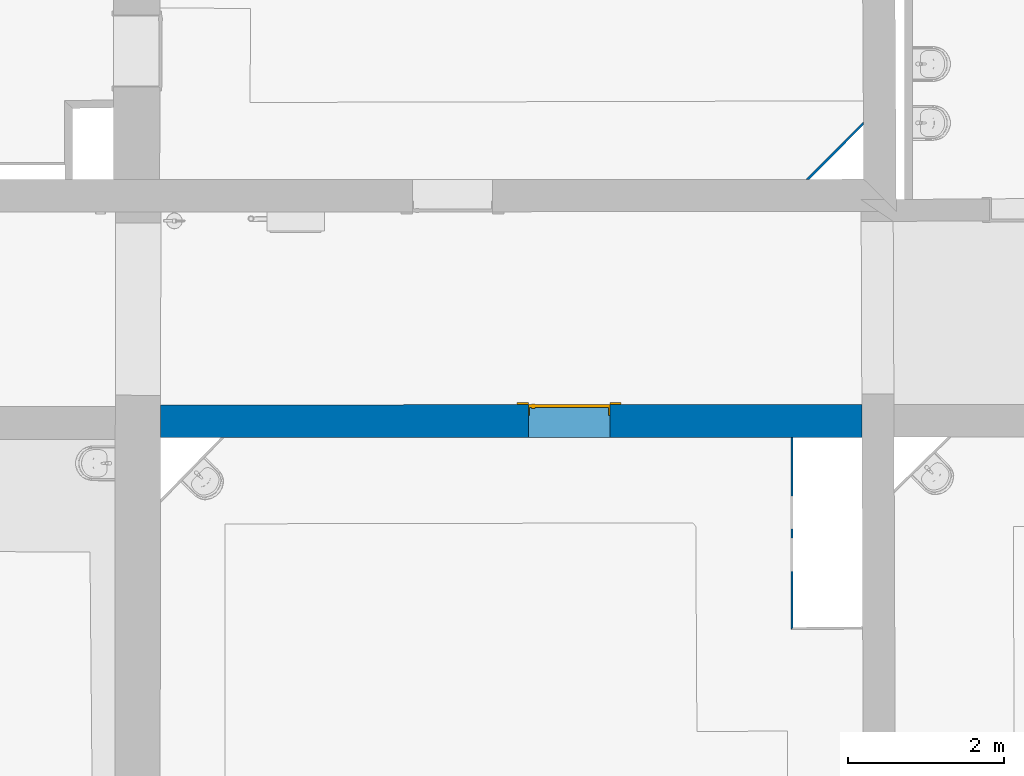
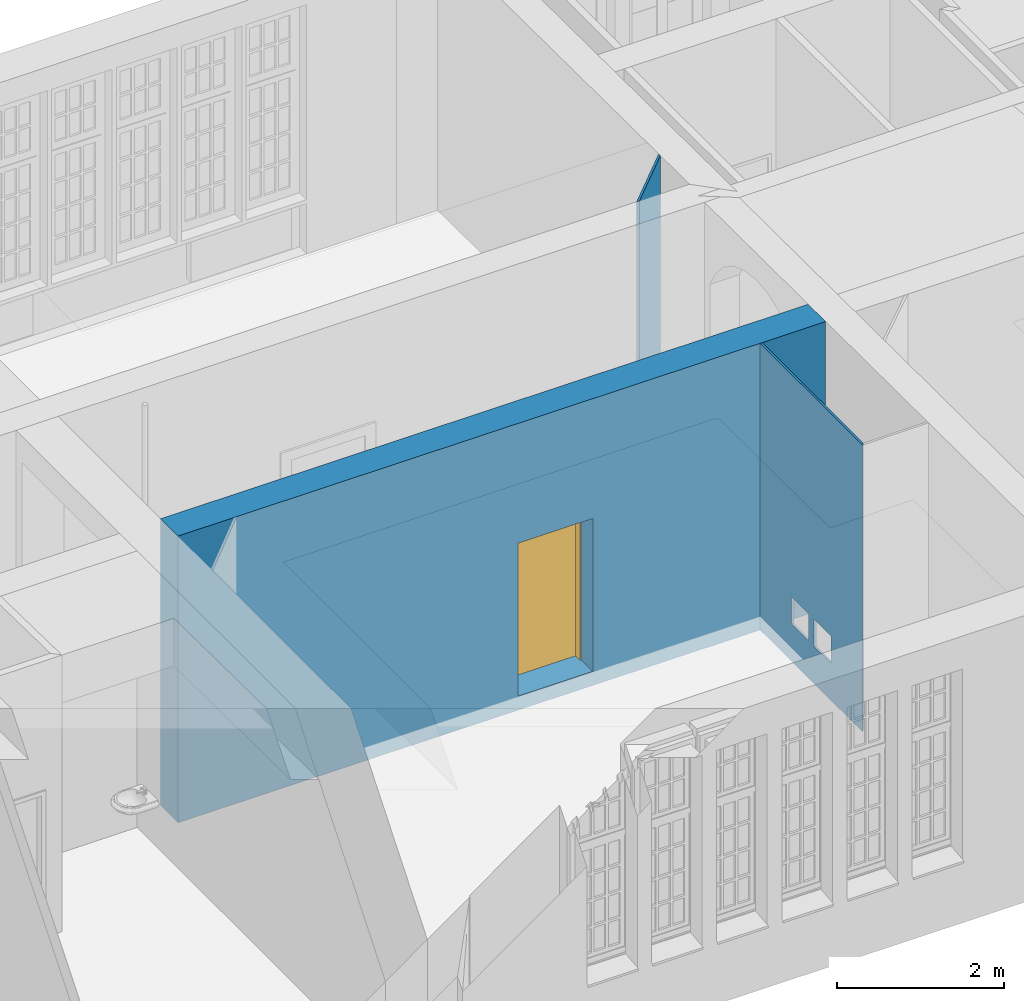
# One storey, part 24 of 90: 3 walls, 1 door, 3 openings.
"""IFC2X3 building model written with IfcOpenShell, lengths in metres."""

from ifc_helpers import new_model, entity, si_unit, converted_unit, derived_unit, money_unit, direction, frame, origin_with_axes, origin_2d_with_axis, place, context, subcontext, project, spatial, polyline, rectangle, outline, extrude, open_shell, faceted_brep, surface_model, source, transform, mapped, material, layer, layer_set, layer_usage, type_object, element, fill, save


model = new_model("IFC2X3")

# Units and contexts
model_context = context("Model", 3, precision=1e-05, world=origin_with_axes(), true_north=direction((0.0, 1.0)))
body_context = subcontext(model_context, "Body", "Model", "MODEL_VIEW")
ifc_project = project(units=[si_unit("LENGTHUNIT", "METRE"), si_unit("AREAUNIT", "SQUARE_METRE"), si_unit("VOLUMEUNIT", "CUBIC_METRE"), converted_unit("PLANEANGLEUNIT", "DEGREE", entity("IfcPlaneAngleMeasure", 0.0174532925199), si_unit("PLANEANGLEUNIT", "RADIAN"), dimensions=[0, 0, 0, 0, 0, 0, 0]), money_unit("EUR"), converted_unit("TIMEUNIT", "Year", entity("IfcTimeMeasure", 31556926.0), si_unit("TIMEUNIT", "SECOND"), dimensions=[0, 0, 1, 0, 0, 0, 0]), si_unit("MASSUNIT", "GRAM", prefix="KILO"), si_unit("THERMODYNAMICTEMPERATUREUNIT", "DEGREE_CELSIUS"), si_unit("LUMINOUSINTENSITYUNIT", "LUMEN"), si_unit("ENERGYUNIT", "JOULE", prefix="MEGA"), derived_unit("THERMALCONDUCTANCEUNIT", [(si_unit("POWERUNIT", "WATT"), 1), (si_unit("LENGTHUNIT", "METRE"), -1), (si_unit("THERMODYNAMICTEMPERATUREUNIT", "KELVIN"), -1)]), derived_unit("SPECIFICHEATCAPACITYUNIT", [(si_unit("ENERGYUNIT", "JOULE"), 1), (si_unit("MASSUNIT", "GRAM", prefix="KILO"), -1), (si_unit("THERMODYNAMICTEMPERATUREUNIT", "KELVIN"), -1)]), derived_unit("MASSDENSITYUNIT", [(si_unit("MASSUNIT", "GRAM", prefix="KILO"), 1), (si_unit("VOLUMEUNIT", "CUBIC_METRE"), -1)])], contexts=[model_context])

# Site, building, storey
site_placement = place(None, origin_with_axes())
site = spatial("IfcSite", under=ifc_project, at=site_placement, Name="Gelände", CompositionType="ELEMENT")
building_placement = place(site_placement, origin_with_axes())
building = spatial("IfcBuilding", under=site, at=building_placement, Name="Gebäude", CompositionType="ELEMENT")
storey_placement = place(building_placement, frame((0.0, 0.0, 3.7), z_axis=(0.0, 0.0, 1.0), x_axis=(1.0, 0.0, 0.0)))
storey = spatial("IfcBuildingStorey", under=building, at=storey_placement, Name="1.OBERGESCHOSS", CompositionType="ELEMENT", Elevation=3.7)

# Wall, opening, door
ifc_material_1 = material(Name="05_ALLGEMEIN - TRAGENDE BAUTEILE")
ifc_layer_1 = layer(ifc_material_1, 0.42, ventilated="UNKNOWN")
ifc_layer_set_1 = layer_set([ifc_layer_1], Name="05_ALLGEMEIN - TRAGENDE BAUTEILE 0.42")
ifc_layer_usage_1 = layer_usage(ifc_layer_set_1, "AXIS2", "POSITIVE", -0.42)
wall_type_1 = type_object("IfcWallType", Name="05_ALLGEMEIN - TRAGENDE BAUTEILE 420", PredefinedType="ELEMENTEDWALL")
wall_1_placement = place(storey_placement, frame((3.56592682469, 16.8108172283, -0.1), z_axis=(0.0, 0.0, 1.0), x_axis=(0.9999999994, 3.46289479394e-05, 0.0)))
wall_1 = element("IfcWallStandardCase", 1, at=wall_1_placement, inside=storey, type_object=wall_type_1, material=ifc_layer_usage_1, Name="Wand-041", ObjectType="ELEMENTEDWALL", context=body_context, shape_type="SweptSolid", body=[
    extrude(outline(polyline([(-0.000550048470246, -0.42), (8.97255301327, -0.42), (8.97097019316, 0.0), (0.0, 0.0), (-0.000550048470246, -0.42)])), origin_with_axes(), (0.0, 0.0, 1.0), 4.2),
])
opening_1_placement = place(wall_1_placement, frame((5.22607919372, 0.0, 0.206800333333), z_axis=(0.0, 0.0, 1.0), x_axis=(1.0, 0.0, 0.0)))
opening_1 = element("IfcOpeningElement", 2, at=opening_1_placement, cuts=wall_1, Name="Tür-022", context=body_context, shape_type="SweptSolid", body=[
    extrude(rectangle(XDim=1.03990335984, YDim=2.24001358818, at=origin_2d_with_axis()), frame((0.0, -0.42, 1.12000679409), z_axis=(0.0, 1.0, 0.0), x_axis=(1.0, 0.0, 0.0)), (0.0, 0.0, 1.0), 1.26),
])
door_style = type_object("IfcDoorStyle", Name="Blockrahmentür 1-Fl 25", ConstructionType="NOTDEFINED", OperationType="SINGLE_SWING_RIGHT", ParameterTakesPrecedence=False, Sizeable=False)
shared_shape = source(origin_with_axes(), body_context, "Body", "SurfaceModel", [
    faceted_brep([(0.519951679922, -0.14, 0.0), (0.519951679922, -0.035, 0.0), (0.519951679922, -0.035, 2.24001358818), (0.519951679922, -0.14, 2.24001358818), (0.504951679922, -0.14, 0.0), (0.504951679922, -0.035, 0.0), (0.504951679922, -0.035, 2.22501358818), (0.1151, -0.035, 2.22501358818), (0.0001, -0.035, 2.22501358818), (-0.504951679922, -0.035, 2.22501358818), (-0.504951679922, -0.035, 0.0), (-0.519951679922, -0.035, 0.0), (-0.519951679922, -0.035, 2.24001358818), (-0.519951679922, -0.14, 2.24001358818), (-0.519951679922, -0.14, 0.0), (-0.504951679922, -0.14, 0.0), (-0.504951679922, -0.14, 2.22501358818), (0.0001, -0.14, 2.22501358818), (0.1151, -0.14, 2.22501358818), (0.504951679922, -0.14, 2.22501358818)], [[[0, 1, 2, 3]], [[4, 5, 1, 0]], [[1, 5, 6, 7, 8, 9, 10, 11, 12, 2]], [[3, 2, 12, 13]], [[0, 3, 13, 14, 15, 16, 17, 18, 19, 4]], [[19, 6, 5, 4]], [[18, 7, 6, 19]], [[17, 8, 7, 18]], [[16, 9, 8, 17]], [[15, 10, 9, 16]], [[14, 11, 10, 15]], [[13, 12, 11, 14]]]),
    surface_model("IfcShellBasedSurfaceModel", [(0.519951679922, -0.035, 0.0), (0.519951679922, 0.03, 0.0), (0.519951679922, 0.03, 2.24001358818), (0.519951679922, -0.035, 2.24001358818), (0.519951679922, -0.035, 2.24001358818), (0.519951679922, 0.03, 2.24001358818), (-0.519951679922, 0.03, 2.24001358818), (0.0151, 0.03, 2.24001358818), (0.1001, 0.03, 2.24001358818), (0.1001, -0.035, 2.24001358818), (0.0151, -0.035, 2.24001358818), (-0.519951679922, -0.035, 2.24001358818), (-0.519951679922, -0.035, 2.24001358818), (-0.519951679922, -0.035, 0.0), (-0.519951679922, 0.03, 0.0), (-0.519951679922, 0.03, 2.24001358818)], [open_shell([[[0, 1, 2, 3]], [[4, 5, 1, 0]], [[6, 7, 8, 2]], [[3, 2, 8, 9]], [[9, 10, 11, 4]], [[12, 6, 5, 4]], [[13, 14, 6, 12]], [[11, 15, 14, 13]], [[10, 7, 15, 11]], [[9, 8, 7, 10]]])]),
    faceted_brep([(0.664951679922, 0.0, 0.0), (0.664951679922, 0.03, 0.0), (0.664951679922, 0.03, 2.38501358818), (0.664951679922, 0.0, 2.38501358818), (0.519951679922, 0.0, 0.0), (0.519951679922, 0.03, 0.0), (0.519951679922, 0.03, 2.24001358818), (-0.519951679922, 0.03, 2.24001358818), (-0.519951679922, 0.03, 0.0), (-0.664951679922, 0.03, 0.0), (-0.664951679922, 0.03, 2.38501358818), (-0.664951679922, 0.0, 2.38501358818), (-0.664951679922, 0.0, 0.0), (-0.519951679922, 0.0, 0.0), (-0.519951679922, 0.0, 2.24001358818), (0.519951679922, 0.0, 2.24001358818)], [[[0, 1, 2, 3]], [[4, 5, 1, 0]], [[1, 5, 6, 7, 8, 9, 10, 2]], [[3, 2, 10, 11]], [[0, 3, 11, 12, 13, 14, 15, 4]], [[15, 6, 5, 4]], [[14, 7, 6, 15]], [[13, 8, 7, 14]], [[12, 9, 8, 13]], [[11, 10, 9, 12]]]),
    faceted_brep([(0.519951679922, 0.002, 0.0), (-0.519951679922, 0.002, 0.0), (-0.519951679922, 0.002, 2.24001358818), (0.519951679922, 0.002, 2.24001358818), (0.519951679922, -0.035, 0.0), (-0.519951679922, -0.035, 0.0), (-0.519951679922, -0.035, 2.24001358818), (0.519951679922, -0.035, 2.24001358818)], [[[0, 1, 2, 3]], [[1, 0, 4, 5]], [[2, 1, 5, 6]], [[3, 2, 6, 7]], [[0, 3, 7, 4]], [[5, 4, 7, 6]]]),
    faceted_brep([(-0.46465396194, -0.075, 1.05647213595), (-0.459951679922, -0.075, 1.058), (-0.459951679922, -0.055, 1.058), (-0.46465396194, -0.055, 1.05647213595), (-0.467560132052, -0.075, 1.05247213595), (-0.467560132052, -0.075, 1.04752786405), (-0.46465396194, -0.075, 1.04352786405), (-0.459951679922, -0.075, 1.042), (-0.455249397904, -0.075, 1.04352786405), (-0.452343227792, -0.075, 1.04752786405), (-0.452343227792, -0.075, 1.05247213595), (-0.455249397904, -0.075, 1.05647213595), (-0.455249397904, -0.055, 1.05647213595), (-0.459951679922, -0.053, 1.06), (-0.465829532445, -0.053, 1.05809016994), (-0.467560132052, -0.055, 1.05247213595), (-0.467560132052, -0.055, 1.04752786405), (-0.46465396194, -0.055, 1.04352786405), (-0.459951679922, -0.055, 1.042), (-0.455249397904, -0.055, 1.04352786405), (-0.452343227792, -0.055, 1.04752786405), (-0.452343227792, -0.055, 1.05247213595), (-0.454073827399, -0.053, 1.05809016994), (-0.459951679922, -0.045, 1.06), (-0.465829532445, -0.045, 1.05809016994), (-0.469462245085, -0.053, 1.05309016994), (-0.469462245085, -0.053, 1.04690983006), (-0.465829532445, -0.053, 1.04190983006), (-0.459951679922, -0.053, 1.04), (-0.454073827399, -0.053, 1.04190983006), (-0.450441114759, -0.053, 1.04690983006), (-0.450441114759, -0.053, 1.05309016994), (-0.454073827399, -0.045, 1.05809016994), (-0.450441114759, -0.045, 1.05309016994), (-0.450441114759, -0.045, 1.04690983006), (-0.454073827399, -0.045, 1.04190983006), (-0.459951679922, -0.045, 1.04), (-0.465829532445, -0.045, 1.04190983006), (-0.469462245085, -0.045, 1.04690983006), (-0.469462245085, -0.045, 1.05309016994)], [[[0, 1, 2, 3]], [[1, 0, 4, 5, 6, 7, 8, 9, 10, 11]], [[1, 11, 12, 2]], [[3, 2, 13, 14]], [[4, 0, 3, 15]], [[5, 4, 15, 16]], [[6, 5, 16, 17]], [[7, 6, 17, 18]], [[8, 7, 18, 19]], [[9, 8, 19, 20]], [[10, 9, 20, 21]], [[11, 10, 21, 12]], [[2, 12, 22, 13]], [[14, 13, 23, 24]], [[15, 3, 14, 25]], [[16, 15, 25, 26]], [[17, 16, 26, 27]], [[18, 17, 27, 28]], [[19, 18, 28, 29]], [[20, 19, 29, 30]], [[21, 20, 30, 31]], [[12, 21, 31, 22]], [[13, 22, 32, 23]], [[23, 32, 33, 34, 35, 36, 37, 38, 39, 24]], [[25, 14, 24, 39]], [[26, 25, 39, 38]], [[27, 26, 38, 37]], [[28, 27, 37, 36]], [[29, 28, 36, 35]], [[30, 29, 35, 34]], [[31, 30, 34, 33]], [[22, 31, 33, 32]]]),
    faceted_brep([(-0.447763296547, -0.045, 1.11759695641), (-0.455508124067, -0.045, 1.12195567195), (-0.464395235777, -0.045, 1.12195567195), (-0.472140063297, -0.045, 1.11759695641), (-0.476751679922, -0.045, 1.11), (-0.482451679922, -0.045, 1.11), (-0.482451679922, -0.045, 0.89), (-0.476751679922, -0.045, 0.89), (-0.472140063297, -0.045, 0.882403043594), (-0.464395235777, -0.045, 0.878044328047), (-0.455508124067, -0.045, 0.878044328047), (-0.447763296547, -0.045, 0.882403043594), (-0.443151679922, -0.045, 0.89), (-0.437451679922, -0.045, 0.89), (-0.437451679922, -0.045, 1.11), (-0.443151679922, -0.045, 1.11), (-0.459951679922, -0.045, 0.967425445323), (-0.454576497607, -0.045, 0.965143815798), (-0.452483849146, -0.045, 0.959692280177), (-0.454951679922, -0.045, 0.9544), (-0.454951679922, -0.045, 0.9375), (-0.456416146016, -0.045, 0.933964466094), (-0.459951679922, -0.045, 0.9325), (-0.463487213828, -0.045, 0.933964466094), (-0.464951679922, -0.045, 0.9375), (-0.464951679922, -0.045, 0.9544), (-0.467419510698, -0.045, 0.959692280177), (-0.465326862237, -0.045, 0.965143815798), (-0.447763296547, -0.035, 1.11759695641), (-0.455508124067, -0.035, 1.12195567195), (-0.464395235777, -0.035, 1.12195567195), (-0.472140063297, -0.035, 1.11759695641), (-0.476751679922, -0.035, 1.11), (-0.482451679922, -0.035, 1.11), (-0.482451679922, -0.035, 0.89), (-0.476751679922, -0.035, 0.89), (-0.472140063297, -0.035, 0.882403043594), (-0.464395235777, -0.035, 0.878044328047), (-0.455508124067, -0.035, 0.878044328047), (-0.447763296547, -0.035, 0.882403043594), (-0.443151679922, -0.035, 0.89), (-0.437451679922, -0.035, 0.89), (-0.437451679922, -0.035, 1.11), (-0.443151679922, -0.035, 1.11), (-0.459951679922, -0.035, 0.967425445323), (-0.454576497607, -0.035, 0.965143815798), (-0.452483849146, -0.035, 0.959692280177), (-0.454951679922, -0.035, 0.9544), (-0.454951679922, -0.035, 0.9375), (-0.456416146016, -0.035, 0.933964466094), (-0.459951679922, -0.035, 0.9325), (-0.463487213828, -0.035, 0.933964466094), (-0.464951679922, -0.035, 0.9375), (-0.464951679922, -0.035, 0.9544), (-0.467419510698, -0.035, 0.959692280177), (-0.465326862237, -0.035, 0.965143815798)], [[[0, 1, 2, 3, 4, 5, 6, 7, 8, 9, 10, 11, 12, 13, 14, 15], [16, 17, 18, 19, 20, 21, 22, 23, 24, 25, 26, 27]], [[1, 0, 28, 29]], [[2, 1, 29, 30]], [[3, 2, 30, 31]], [[4, 3, 31, 32]], [[5, 4, 32, 33]], [[6, 5, 33, 34]], [[7, 6, 34, 35]], [[8, 7, 35, 36]], [[9, 8, 36, 37]], [[10, 9, 37, 38]], [[11, 10, 38, 39]], [[12, 11, 39, 40]], [[13, 12, 40, 41]], [[14, 13, 41, 42]], [[15, 14, 42, 43]], [[0, 15, 43, 28]], [[17, 16, 44, 45]], [[18, 17, 45, 46]], [[19, 18, 46, 47]], [[19, 47, 48, 20]], [[20, 48, 49, 21]], [[21, 49, 50, 22]], [[22, 50, 51, 23]], [[23, 51, 52, 24]], [[53, 25, 24, 52]], [[26, 25, 53, 54]], [[27, 26, 54, 55]], [[16, 27, 55, 44]], [[40, 39, 38, 37, 36, 35, 34, 33, 32, 31, 30, 29, 28, 43, 42, 41], [54, 53, 52, 51, 50, 49, 48, 47, 46, 45, 44, 55]]]),
    faceted_brep([(-0.345698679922, -0.075, 1.057158), (-0.345698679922, -0.09, 1.057158), (-0.345697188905, -0.09, 1.05719388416), (-0.345697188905, -0.075, 1.05719388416), (-0.372726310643, -0.075, 1.06432652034), (-0.372726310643, -0.09, 1.06432652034), (-0.400554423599, -0.09, 1.06706086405), (-0.428460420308, -0.09, 1.06529002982), (-0.455719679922, -0.09, 1.05906), (-0.462122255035, -0.09, 1.05976125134), (-0.467624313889, -0.09, 1.05641280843), (-0.469943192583, -0.09, 1.05040385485), (-0.468116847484, -0.09, 1.04422735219), (-0.462902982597, -0.09, 1.04044577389), (-0.456464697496, -0.09, 1.04062800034), (-0.451473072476, -0.09, 1.04469843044), (-0.451493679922, -0.09, 1.044666), (-0.426204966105, -0.09, 1.05019878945), (-0.400362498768, -0.09, 1.05171460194), (-0.374600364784, -0.09, 1.04917624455), (-0.349550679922, -0.09, 1.042646), (-0.344007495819, -0.09, 1.04356849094), (-0.340645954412, -0.09, 1.04807159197), (-0.341337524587, -0.09, 1.05364829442), (-0.341337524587, -0.075, 1.05364829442), (-0.340645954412, -0.075, 1.04807159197), (-0.344007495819, -0.075, 1.04356849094), (-0.349550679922, -0.075, 1.042646), (-0.374600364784, -0.075, 1.04917624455), (-0.400362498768, -0.075, 1.05171460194), (-0.426204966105, -0.075, 1.05019878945), (-0.451493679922, -0.075, 1.044666), (-0.451473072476, -0.075, 1.04469843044), (-0.456464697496, -0.075, 1.04062800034), (-0.462902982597, -0.075, 1.04044577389), (-0.468116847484, -0.075, 1.04422735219), (-0.469943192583, -0.075, 1.05040385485), (-0.467624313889, -0.075, 1.05641280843), (-0.462122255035, -0.075, 1.05976125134), (-0.455719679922, -0.075, 1.05906), (-0.428460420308, -0.075, 1.06529002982), (-0.400554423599, -0.075, 1.06706086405)], [[[0, 1, 2, 3]], [[4, 5, 1, 0]], [[1, 5, 6, 7, 8, 9, 10, 11, 12, 13, 14, 15, 16, 17, 18, 19, 20, 21, 22, 23, 2]], [[3, 2, 23, 24]], [[0, 3, 24, 25, 26, 27, 28, 29, 30, 31, 32, 33, 34, 35, 36, 37, 38, 39, 40, 41, 4]], [[41, 6, 5, 4]], [[40, 7, 6, 41]], [[39, 8, 7, 40]], [[38, 9, 8, 39]], [[37, 10, 9, 38]], [[36, 11, 10, 37]], [[35, 12, 11, 36]], [[34, 13, 12, 35]], [[33, 14, 13, 34]], [[32, 15, 14, 33]], [[31, 16, 15, 32]], [[30, 17, 16, 31]], [[29, 18, 17, 30]], [[28, 19, 18, 29]], [[27, 20, 19, 28]], [[26, 21, 20, 27]], [[25, 22, 21, 26]], [[24, 23, 22, 25]]]),
    faceted_brep([(-0.46465396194, 0.042, 1.05647213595), (-0.46465396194, 0.022, 1.05647213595), (-0.459951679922, 0.022, 1.058), (-0.459951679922, 0.042, 1.058), (-0.467560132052, 0.042, 1.05247213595), (-0.467560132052, 0.022, 1.05247213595), (-0.465829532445, 0.02, 1.05809016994), (-0.459951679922, 0.02, 1.06), (-0.455249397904, 0.022, 1.05647213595), (-0.455249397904, 0.042, 1.05647213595), (-0.452343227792, 0.042, 1.05247213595), (-0.452343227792, 0.042, 1.04752786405), (-0.455249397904, 0.042, 1.04352786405), (-0.459951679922, 0.042, 1.042), (-0.46465396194, 0.042, 1.04352786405), (-0.467560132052, 0.042, 1.04752786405), (-0.467560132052, 0.022, 1.04752786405), (-0.469462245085, 0.02, 1.05309016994), (-0.465829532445, 0.012, 1.05809016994), (-0.459951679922, 0.012, 1.06), (-0.454073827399, 0.02, 1.05809016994), (-0.452343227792, 0.022, 1.05247213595), (-0.452343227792, 0.022, 1.04752786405), (-0.455249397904, 0.022, 1.04352786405), (-0.459951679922, 0.022, 1.042), (-0.46465396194, 0.022, 1.04352786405), (-0.469462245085, 0.02, 1.04690983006), (-0.469462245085, 0.012, 1.05309016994), (-0.469462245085, 0.012, 1.04690983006), (-0.465829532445, 0.012, 1.04190983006), (-0.459951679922, 0.012, 1.04), (-0.454073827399, 0.012, 1.04190983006), (-0.450441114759, 0.012, 1.04690983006), (-0.450441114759, 0.012, 1.05309016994), (-0.454073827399, 0.012, 1.05809016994), (-0.450441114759, 0.02, 1.05309016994), (-0.450441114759, 0.02, 1.04690983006), (-0.454073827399, 0.02, 1.04190983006), (-0.459951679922, 0.02, 1.04), (-0.465829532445, 0.02, 1.04190983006)], [[[0, 1, 2, 3]], [[4, 5, 1, 0]], [[1, 6, 7, 2]], [[3, 2, 8, 9]], [[3, 9, 10, 11, 12, 13, 14, 15, 4, 0]], [[15, 16, 5, 4]], [[5, 17, 6, 1]], [[6, 18, 19, 7]], [[2, 7, 20, 8]], [[9, 8, 21, 10]], [[10, 21, 22, 11]], [[11, 22, 23, 12]], [[12, 23, 24, 13]], [[13, 24, 25, 14]], [[14, 25, 16, 15]], [[16, 26, 17, 5]], [[17, 27, 18, 6]], [[19, 18, 27, 28, 29, 30, 31, 32, 33, 34]], [[7, 19, 34, 20]], [[8, 20, 35, 21]], [[21, 35, 36, 22]], [[22, 36, 37, 23]], [[23, 37, 38, 24]], [[24, 38, 39, 25]], [[25, 39, 26, 16]], [[26, 28, 27, 17]], [[39, 29, 28, 26]], [[38, 30, 29, 39]], [[37, 31, 30, 38]], [[36, 32, 31, 37]], [[35, 33, 32, 36]], [[20, 34, 33, 35]]]),
    faceted_brep([(-0.447763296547, 0.002, 1.11759695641), (-0.455508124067, 0.002, 1.12195567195), (-0.464395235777, 0.002, 1.12195567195), (-0.472140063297, 0.002, 1.11759695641), (-0.476751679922, 0.002, 1.11), (-0.482451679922, 0.002, 1.11), (-0.482451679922, 0.002, 0.89), (-0.476751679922, 0.002, 0.89), (-0.472140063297, 0.002, 0.882403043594), (-0.464395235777, 0.002, 0.878044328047), (-0.455508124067, 0.002, 0.878044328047), (-0.447763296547, 0.002, 0.882403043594), (-0.443151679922, 0.002, 0.89), (-0.437451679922, 0.002, 0.89), (-0.437451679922, 0.002, 1.11), (-0.443151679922, 0.002, 1.11), (-0.459951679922, 0.002, 0.967425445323), (-0.454576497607, 0.002, 0.965143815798), (-0.452483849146, 0.002, 0.959692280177), (-0.454951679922, 0.002, 0.9544), (-0.454951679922, 0.002, 0.9375), (-0.456416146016, 0.002, 0.933964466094), (-0.459951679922, 0.002, 0.9325), (-0.463487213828, 0.002, 0.933964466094), (-0.464951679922, 0.002, 0.9375), (-0.464951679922, 0.002, 0.9544), (-0.467419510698, 0.002, 0.959692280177), (-0.465326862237, 0.002, 0.965143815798), (-0.455508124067, 0.012, 1.12195567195), (-0.447763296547, 0.012, 1.11759695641), (-0.464395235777, 0.012, 1.12195567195), (-0.472140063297, 0.012, 1.11759695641), (-0.476751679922, 0.012, 1.11), (-0.482451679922, 0.012, 1.11), (-0.482451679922, 0.012, 0.89), (-0.476751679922, 0.012, 0.89), (-0.472140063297, 0.012, 0.882403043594), (-0.464395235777, 0.012, 0.878044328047), (-0.455508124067, 0.012, 0.878044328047), (-0.447763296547, 0.012, 0.882403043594), (-0.443151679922, 0.012, 0.89), (-0.437451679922, 0.012, 0.89), (-0.437451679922, 0.012, 1.11), (-0.443151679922, 0.012, 1.11), (-0.459951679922, 0.012, 0.967425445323), (-0.454576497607, 0.012, 0.965143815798), (-0.452483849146, 0.012, 0.959692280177), (-0.454951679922, 0.012, 0.9544), (-0.454951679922, 0.012, 0.9375), (-0.456416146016, 0.012, 0.933964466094), (-0.459951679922, 0.012, 0.9325), (-0.463487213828, 0.012, 0.933964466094), (-0.464951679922, 0.012, 0.9375), (-0.464951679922, 0.012, 0.9544), (-0.467419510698, 0.012, 0.959692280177), (-0.465326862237, 0.012, 0.965143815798)], [[[0, 1, 2, 3, 4, 5, 6, 7, 8, 9, 10, 11, 12, 13, 14, 15], [16, 17, 18, 19, 20, 21, 22, 23, 24, 25, 26, 27]], [[28, 1, 0, 29]], [[30, 2, 1, 28]], [[31, 3, 2, 30]], [[32, 4, 3, 31]], [[33, 5, 4, 32]], [[34, 6, 5, 33]], [[35, 7, 6, 34]], [[36, 8, 7, 35]], [[37, 9, 8, 36]], [[38, 10, 9, 37]], [[39, 11, 10, 38]], [[40, 12, 11, 39]], [[41, 13, 12, 40]], [[42, 14, 13, 41]], [[43, 15, 14, 42]], [[29, 0, 15, 43]], [[17, 16, 44, 45]], [[18, 17, 45, 46]], [[19, 18, 46, 47]], [[19, 47, 48, 20]], [[20, 48, 49, 21]], [[21, 49, 50, 22]], [[22, 50, 51, 23]], [[23, 51, 52, 24]], [[53, 25, 24, 52]], [[26, 25, 53, 54]], [[27, 26, 54, 55]], [[16, 27, 55, 44]], [[40, 39, 38, 37, 36, 35, 34, 33, 32, 31, 30, 28, 29, 43, 42, 41], [54, 53, 52, 51, 50, 49, 48, 47, 46, 45, 44, 55]]]),
    faceted_brep([(-0.345698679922, 0.042, 1.057158), (-0.345697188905, 0.042, 1.05719388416), (-0.345697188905, 0.057, 1.05719388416), (-0.345698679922, 0.057, 1.057158), (-0.372726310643, 0.042, 1.06432652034), (-0.400554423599, 0.042, 1.06706086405), (-0.428460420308, 0.042, 1.06529002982), (-0.455719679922, 0.042, 1.05906), (-0.462122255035, 0.042, 1.05976125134), (-0.467624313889, 0.042, 1.05641280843), (-0.469943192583, 0.042, 1.05040385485), (-0.468116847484, 0.042, 1.04422735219), (-0.462902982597, 0.042, 1.04044577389), (-0.456464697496, 0.042, 1.04062800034), (-0.451473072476, 0.042, 1.04469843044), (-0.451493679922, 0.042, 1.044666), (-0.426204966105, 0.042, 1.05019878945), (-0.400362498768, 0.042, 1.05171460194), (-0.374600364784, 0.042, 1.04917624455), (-0.349550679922, 0.042, 1.042646), (-0.344007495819, 0.042, 1.04356849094), (-0.340645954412, 0.042, 1.04807159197), (-0.341337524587, 0.042, 1.05364829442), (-0.341337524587, 0.057, 1.05364829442), (-0.340645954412, 0.057, 1.04807159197), (-0.344007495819, 0.057, 1.04356849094), (-0.349550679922, 0.057, 1.042646), (-0.374600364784, 0.057, 1.04917624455), (-0.400362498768, 0.057, 1.05171460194), (-0.426204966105, 0.057, 1.05019878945), (-0.451493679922, 0.057, 1.044666), (-0.451473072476, 0.057, 1.04469843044), (-0.456464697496, 0.057, 1.04062800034), (-0.462902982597, 0.057, 1.04044577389), (-0.468116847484, 0.057, 1.04422735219), (-0.469943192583, 0.057, 1.05040385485), (-0.467624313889, 0.057, 1.05641280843), (-0.462122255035, 0.057, 1.05976125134), (-0.455719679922, 0.057, 1.05906), (-0.428460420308, 0.057, 1.06529002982), (-0.400554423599, 0.057, 1.06706086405), (-0.372726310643, 0.057, 1.06432652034)], [[[0, 1, 2, 3]], [[0, 4, 5, 6, 7, 8, 9, 10, 11, 12, 13, 14, 15, 16, 17, 18, 19, 20, 21, 22, 1]], [[1, 22, 23, 2]], [[3, 2, 23, 24, 25, 26, 27, 28, 29, 30, 31, 32, 33, 34, 35, 36, 37, 38, 39, 40, 41]], [[4, 0, 3, 41]], [[5, 4, 41, 40]], [[6, 5, 40, 39]], [[7, 6, 39, 38]], [[8, 7, 38, 37]], [[9, 8, 37, 36]], [[10, 9, 36, 35]], [[11, 10, 35, 34]], [[12, 11, 34, 33]], [[13, 12, 33, 32]], [[14, 13, 32, 31]], [[15, 14, 31, 30]], [[16, 15, 30, 29]], [[17, 16, 29, 28]], [[18, 17, 28, 27]], [[19, 18, 27, 26]], [[20, 19, 26, 25]], [[21, 20, 25, 24]], [[22, 21, 24, 23]]]),
])
door_placement = place(opening_1_placement, frame((-0.504951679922, 0.0, 0.0), z_axis=(0.0, 0.0, 1.0), x_axis=(1.0, 0.0, 0.0)))
door = element("IfcDoor", 3, at=door_placement, inside=storey, type_object=door_style, Name="Tür-022", ObjectType="NOTDEFINED", OverallHeight=2.24001, OverallWidth=1.0399, context=body_context, shape_type="MappedRepresentation", body=[
    mapped(shared_shape, transform((0.504951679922, 0.0, 0.0))),
])
fill(opening_1, door)

# Wall
ifc_material_2 = material(Name="43_Gipskarton")
ifc_layer_2 = layer(ifc_material_2, 0.03, ventilated="UNKNOWN")
ifc_layer_set_2 = layer_set([ifc_layer_2], Name="43_Gipskarton 0.03")
ifc_layer_usage_2 = layer_usage(ifc_layer_set_2, "AXIS2", "NEGATIVE", 0.03)
wall_type_2 = type_object("IfcWallType", Name="43_Gipskarton 30", PredefinedType="ELEMENTEDWALL")
wall_2_placement = place(storey_placement, frame((12.5567889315, 20.4329608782, -0.1), z_axis=(0.0, 0.0, 1.0), x_axis=(-0.704304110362, -0.709898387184, 0.0)))
element("IfcWallStandardCase", 4, at=wall_2_placement, inside=storey, type_object=wall_type_2, material=ifc_layer_usage_2, Name="Wand-040", ObjectType="ELEMENTEDWALL", context=body_context, shape_type="SweptSolid", body=[
    extrude(outline(polyline([(0.0, 0.0), (1.03867445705, 0.0), (1.00889353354, 0.03), (0.0299023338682, 0.03), (0.0, 0.0)])), origin_with_axes(), (0.0, 0.0, 1.0), 4.2),
])

# Wall, openings
ifc_layer_usage_3 = layer_usage(ifc_layer_set_2, "AXIS2", "NEGATIVE", 0.03)
wall_3_placement = place(storey_placement, frame((11.6288620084, 16.8110964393, -0.1), z_axis=(0.0, 0.0, 1.0), x_axis=(-5.3437443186e-06, -0.999999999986, 0.0)))
wall_3 = element("IfcWallStandardCase", 5, at=wall_3_placement, inside=storey, type_object=wall_type_2, material=ifc_layer_usage_3, Name="Wand-040", ObjectType="ELEMENTEDWALL", context=body_context, shape_type="SweptSolid", body=[
    extrude(outline(polyline([(0.420000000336, 0.0), (2.8784419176, 0.0), (2.84816442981, 0.03), (0.419998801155, 0.03), (0.420000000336, 0.0)])), origin_with_axes(), (0.0, 0.0, 1.0), 4.2),
])
opening_2_placement = place(wall_3_placement, frame((1.92040744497, 0.0, 0.543844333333), z_axis=(0.0, 0.0, 1.0), x_axis=(1.0, 0.0, 0.0)))
element("IfcOpeningElement", 6, at=opening_2_placement, cuts=wall_3, Name="Tür-022", context=body_context, shape_type="SweptSolid", body=[
    extrude(rectangle(XDim=0.405893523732, YDim=0.396842, at=origin_2d_with_axis()), frame((0.0, -0.03, 0.198421), z_axis=(0.0, 1.0, 0.0), x_axis=(1.0, 0.0, 0.0)), (0.0, 0.0, 1.0), 0.09),
])
opening_3_placement = place(wall_3_placement, frame((1.37750742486, 0.0, 0.550258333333), z_axis=(0.0, 0.0, 1.0), x_axis=(1.0, 0.0, 0.0)))
element("IfcOpeningElement", 7, at=opening_3_placement, cuts=wall_3, Name="Tür-022", context=body_context, shape_type="SweptSolid", body=[
    extrude(rectangle(XDim=0.402311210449, YDim=0.392939, at=origin_2d_with_axis()), frame((0.0, 0.03, 0.1964695), z_axis=(0.0, 1.0, 0.0), x_axis=(-1.0, 0.0, 0.0)), (0.0, 0.0, -1.0), 0.09),
])

save(model, "model.ifc")
